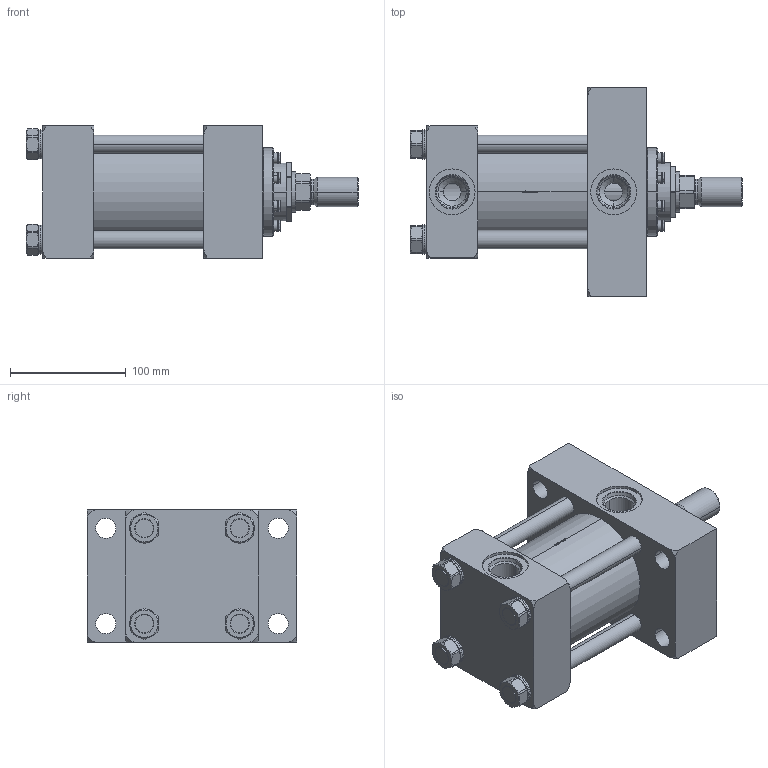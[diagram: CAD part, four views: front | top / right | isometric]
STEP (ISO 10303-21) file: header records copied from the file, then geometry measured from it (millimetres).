
FILE_DESCRIPTION (( 'STEP AP214' ), '1' );
FILE_NAME ('3.25JJ2HHNAT114A2.000.step', '2026-03-26T21:19:30', ( '' ), ( '' ), 'SwSTEP 2.0', 'SolidWorks 2023', '' );
FILE_SCHEMA (( 'AUTOMOTIVE_DESIGN' ));
Length unit declared in the file: inch
Products named in the file (1): 3.25JJ2HHNAT114A2.000
Bounding box: 287.34 x 180.97 x 114.3 mm (x, y, z)
Volume: 2148428.9 mm3; surface area: 349583.3 mm2
Topology: 43 solids, 43 shells, 1638 faces, 4251 edges, 2710 vertices
Faces by surface type: plane 830, cylinder 519, cone 229, bspline 52, torus 8
Entity records: 75590 total; most frequent: CARTESIAN_POINT 14648, ORIENTED_EDGE 8422, DIRECTION 7989, EDGE_CURVE 4211, AXIS2_PLACEMENT_3D 3067, VERTEX_POINT 2710, LINE 1855, VECTOR 1855
